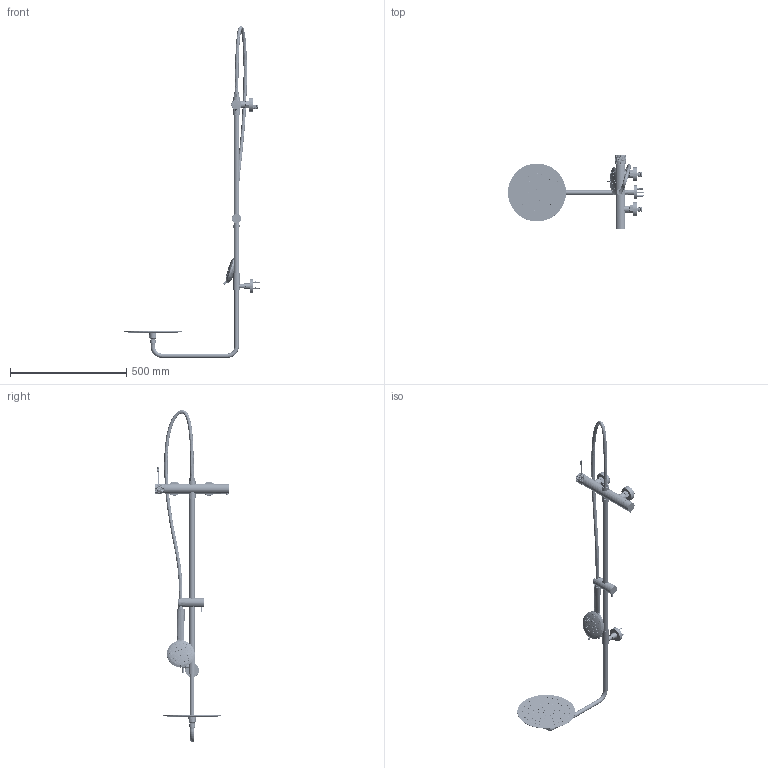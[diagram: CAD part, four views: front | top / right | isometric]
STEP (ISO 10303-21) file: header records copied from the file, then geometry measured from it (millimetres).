
FILE_DESCRIPTION((''),'2;1');
FILE_NAME('1306851A_ASM_ASM','2022-11-30T',('Administrator'),(''),'PRO/ENGINEER BY PARAMETRIC TECHNOLOGY CORPORATION, 2015240','PRO/ENGINEER BY PARAMETRIC TECHNOLOGY CORPORATION, 2015240','');
FILE_SCHEMA(('CONFIG_CONTROL_DESIGN'));
Length unit declared in the file: millimetre
Products named in the file (67): 513068-01-222A_AF0_32; 513068-01-322A_AF0_47; 513068-01-422A_36; 513068-01-722A_AF0_5; 513068-01-622A_33; 513068-01-522A_35; 513068-01-322_14; 513068-01-123A_ASM_45_ASM; 512052-01-422A_10; 513068-0100A_ASM_34_ASM; 60701541_2; 61302922_7; 61803500_7; MANIFOLD_SOLID_BREP_22561; MANIFOLD_SOLID_BREP_22807; 60722841_7_ASM; 7609314-0100_1; 7609313-0200_1; 61109212_1; 7609314-0300_1; 60931400_ASM_1_ASM; 61102012_3; 61800800_1; 61614941_4; 7609114-100_4; 7609114-200_4; 61100112_6; 518084-0322_3; 61300700_2; 61500042_3; 61301300_2; 7656057-0100_1; 61316312_2; 7656038-0300_2; 7656038-0400_2; 7656038-0641_2; 7656057-0200_1; 61502642_2; 7656069-0600_1; MANIFOLD_SOLID_BREP_435687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
Assembly tree (83 placements, depth 5):
  1306851A_ASM_ASM
    1306800A_ASM_38_ASM
      513068-0100A_ASM_34_ASM
        513068-01-123A_ASM_45_ASM
          513068-01-222A_AF0_32
          513068-01-322A_AF0_47
          513068-01-422A_36  x2
          513068-01-722A_AF0_5
          513068-01-622A_33
          513068-01-522A_35
          513068-01-322_14
        512052-01-422A_10  x2
      60701541_2
      61302922_7
      61803500_7
      60722841_7_ASM
        MANIFOLD_SOLID_BREP_22561
        MANIFOLD_SOLID_BREP_22807
      60931400_ASM_1_ASM
        7609314-0100_1
        7609313-0200_1
        61109212_1
        7609314-0300_1
      61102012_3
      61800800_1
      61614941_4
      7609114-100_4
      7609114-200_4
      61100112_6
      518084-0322_3
      61300700_2  x2
      61500042_3  x2
      61301300_2  x2
      65605712_ASM_3_ASM
        7656057-0100_1
        61316312_2
        61500042_3
        7656038-0300_2
        7656038-0400_2
        7656038-0641_2
        7656057-0200_1
        61502642_2  x4
        7656069-0600_1
        60202600_2_ASM
          MANIFOLD_SOLID_BREP_435687
          MANIFOLD_SOLID_BREP_436735
          MANIFOLD_SOLID_BREP_439147
        61626141_1_ASM
          BREP_WITH_VOIDS_441496
          MANIFOLD_SOLID_BREP_441603
      65404999_ASM_1_ASM
        7654000-1100_2  x2
        7654045-0112_1  x2
        61600942_1  x2
      65403600_ASM_3_ASM
        7654036-0322_2
        7654036-0100_2
        7654036-0441_2
        61105312_1  x2
        61100212_2  x3
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Bounding box: 586.5 x 317 x 1430.05 mm (x, y, z)
Volume: 1142534.6 mm3; surface area: 812654.6 mm2
Topology: 72 solids, 121 shells, 13128 faces, 30532 edges, 17842 vertices
Faces by surface type: bspline 6584, cylinder 3185, plane 2067, cone 678, torus 536, sphere 40, revolution 29, extrusion 9
Entity records: 527813 total; most frequent: CARTESIAN_POINT 302163, ORIENTED_EDGE 56636, EDGE_CURVE 28397, DIRECTION 27256, B_SPLINE_CURVE_WITH_KNOTS 18386, VERTEX_POINT 16496, EDGE_LOOP 13136, FACE_OUTER_BOUND 12381
